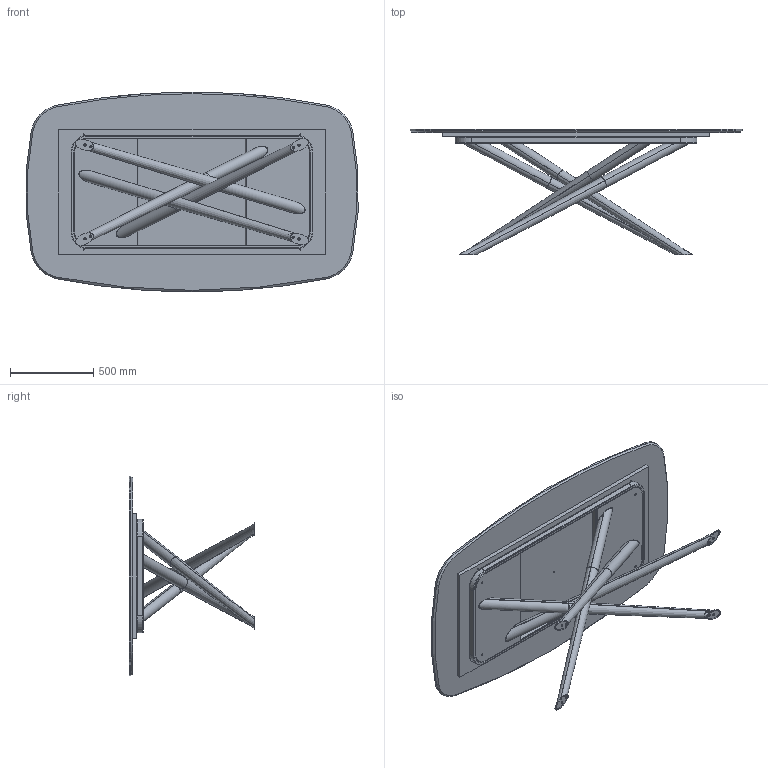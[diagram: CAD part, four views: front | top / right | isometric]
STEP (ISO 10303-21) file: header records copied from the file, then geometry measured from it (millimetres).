
FILE_DESCRIPTION (( 'STEP AP203' ), '1' );
FILE_NAME ('BA41M.STEP', '2024-08-08T06:18:08', ( '' ), ( '' ), 'SwSTEP 2.0', 'SolidWorks 2022', '' );
FILE_SCHEMA (( 'CONFIG_CONTROL_DESIGN' ));
Length unit declared in the file: millimetre
Products named in the file (10): BAB100000_01-00-Gambe saldate BALY 240_Default<A macchina>; BAB100000_02-00-piede per baly 240; TR Fastenings Ltd-M6_M6; BA41M; M6xXXmm_HEX_M6x30mm HEX; M4X-00-Piani Sagomati in marmo_2000 x 1200; BAB100000_03-00-Telaio BALY L240_Default<A macchina>; M4XMXX-00-Piani Sagomati in marmo_2000x1200; BAB100000-00-BALY BASE GREZZA L240 rettangolare; TRUXXXXXX-00-NOBILITATO GR CON SUPP TRUCIOLARE SP. 25_TRU00004_1600x720
Assembly tree (20 placements, depth 3):
  BA41M
    M4XMXX-00-Piani Sagomati in marmo_2000x1200
      M4X-00-Piani Sagomati in marmo_2000 x 1200
      TRUXXXXXX-00-NOBILITATO GR CON SUPP TRUCIOLARE SP. 25_TRU00004_1600x720
    BAB100000-00-BALY BASE GREZZA L240 rettangolare
      BAB100000_01-00-Gambe saldate BALY 240_Default<A macchina>
      BAB100000_03-00-Telaio BALY L240_Default<A macchina>
      BAB100000_02-00-piede per baly 240  x4
      TR Fastenings Ltd-M6_M6  x2
      M6xXXmm_HEX_M6x30mm HEX  x8
Bounding box: 1992.14 x 754 x 1200 mm (x, y, z)
Volume: 79250131.6 mm3; surface area: 11206789.7 mm2
Topology: 28 solids, 28 shells, 704 faces, 1484 edges, 815 vertices
Faces by surface type: plane 292, cylinder 211, cone 135, torus 48, bspline 18
Entity records: 12486 total; most frequent: CARTESIAN_POINT 2097, DIRECTION 2048, ORIENTED_EDGE 1744, EDGE_CURVE 872, AXIS2_PLACEMENT_3D 801, VERTEX_POINT 506, EDGE_LOOP 476, LINE 446
